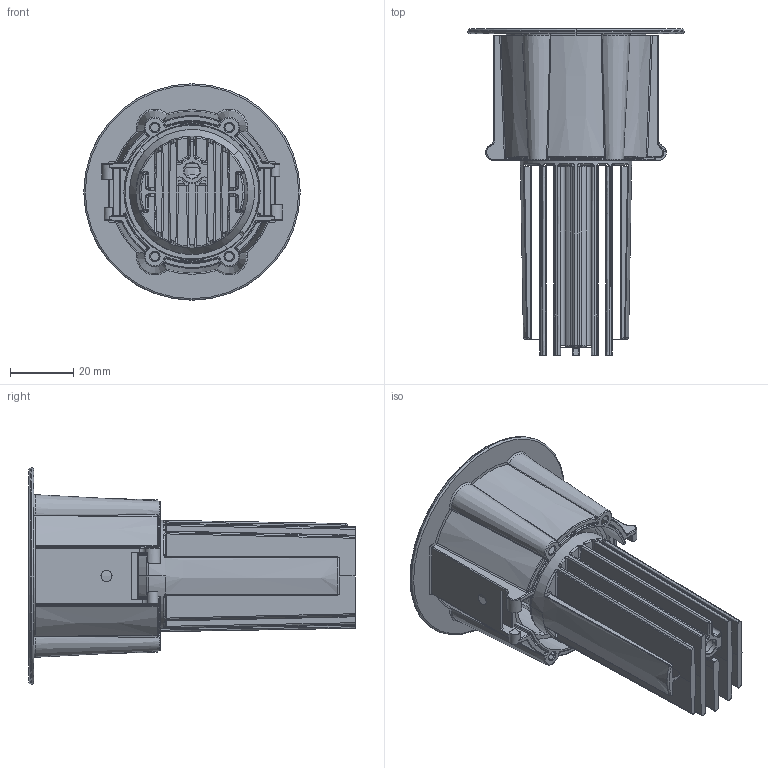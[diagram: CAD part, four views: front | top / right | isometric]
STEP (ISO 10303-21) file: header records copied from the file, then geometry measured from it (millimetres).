
FILE_DESCRIPTION((''),'2;1');
FILE_NAME('MENO-CON-BORDO_SW0001','2025-05-15T16:07:54',('elena.baldelli'),(''),'CREO PARAMETRIC BY PTC INC, 2020354','CREO PARAMETRIC BY PTC INC, 2020354','');
FILE_SCHEMA(('CONFIG_CONTROL_DESIGN'));
Length unit declared in the file: millimetre
Products named in the file (1): MENO-CON-BORDO_SW0001
Bounding box: 68.34 x 103 x 68.34 mm (x, y, z)
Surface area: 50802.2 mm2 (no closed solid volume)
Topology: 0 solids, 10 shells, 370 faces, 1508 edges, 1094 vertices
Faces by surface type: plane 114, cylinder 73, bspline 64, torus 61, cone 56, sphere 2
Entity records: 22910 total; most frequent: CARTESIAN_POINT 11640, DIRECTION 2180, ORIENTED_EDGE 2171, EDGE_CURVE 1508, VERTEX_POINT 1094, AXIS2_PLACEMENT_3D 870, CIRCLE 564, B_SPLINE_CURVE_WITH_KNOTS 504
